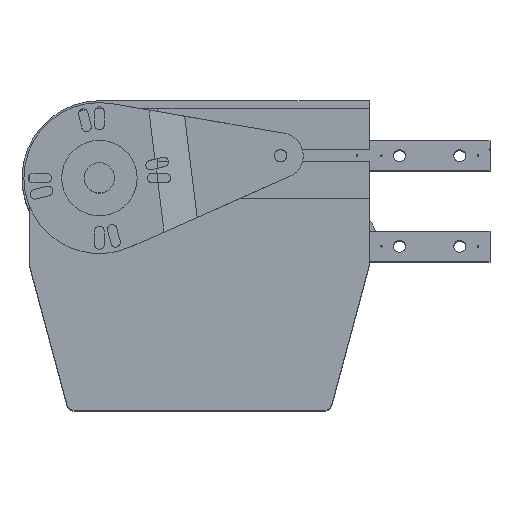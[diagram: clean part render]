
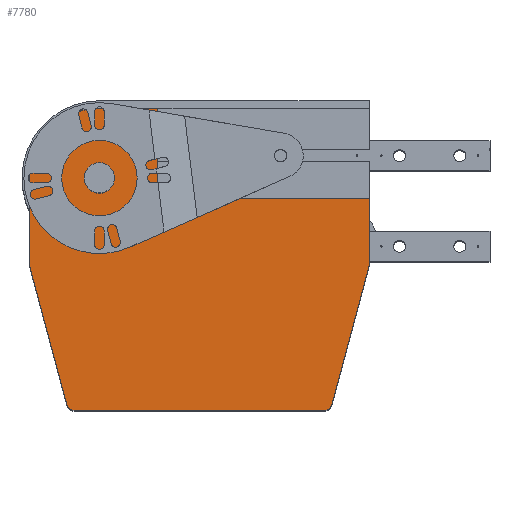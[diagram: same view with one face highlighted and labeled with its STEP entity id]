
A CAD part, top view. The second image highlights one B-rep face of the part: STEP entity #7780.
In plain terms, the highlighted planar face has unit normal (0, 0, 1).
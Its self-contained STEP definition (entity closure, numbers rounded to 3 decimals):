
#27 = EDGE_CURVE ( 'NONE', #3335, #2910, #748, .T. ) ;
#133 = CARTESIAN_POINT ( 'NONE',  ( 5., -51.3, 196. ) ) ;
#194 = CARTESIAN_POINT ( 'NONE',  ( 230., -106.4, 196. ) ) ;
#229 = ORIENTED_EDGE ( 'NONE', *, *, #4416, .T. ) ;
#374 = ORIENTED_EDGE ( 'NONE', *, *, #3971, .T. ) ;
#534 = CIRCLE ( 'NONE', #2267, 46.3 ) ;
#624 = DIRECTION ( 'NONE',  ( 0., 0., -1. ) ) ;
#709 = DIRECTION ( 'NONE',  ( -1., 0., 0. ) ) ;
#748 = CIRCLE ( 'NONE', #5394, 5. ) ;
#779 = FACE_BOUND ( 'NONE', #5028, .T. ) ;
#820 = DIRECTION ( 'NONE',  ( 0., 1., 0. ) ) ;
#987 = EDGE_CURVE ( 'NONE', #1405, #1373, #7731, .T. ) ;
#1004 = CARTESIAN_POINT ( 'NONE',  ( 5.17, -109.636, 196. ) ) ;
#1030 = CARTESIAN_POINT ( 'NONE',  ( 61.3, -51.3, 196. ) ) ;
#1039 = AXIS2_PLACEMENT_3D ( 'NONE', #3206, #7513, #709 ) ;
#1309 = DIRECTION ( 'NONE',  ( 0., 0., 1. ) ) ;
#1319 = VECTOR ( 'NONE', #7935, 1000. ) ;
#1373 = VERTEX_POINT ( 'NONE', #2838 ) ;
#1405 = VERTEX_POINT ( 'NONE', #6723 ) ;
#1452 = CARTESIAN_POINT ( 'NONE',  ( 200.44, -205., 196. ) ) ;
#1519 = CARTESIAN_POINT ( 'NONE',  ( 230., -109., 196. ) ) ;
#1601 = EDGE_LOOP ( 'NONE', ( #229, #2205, #374, #3161, #5091, #2837, #1822, #4027, #5417, #3319, #1809, #3948 ) ) ;
#1617 = VERTEX_POINT ( 'NONE', #3735 ) ;
#1809 = ORIENTED_EDGE ( 'NONE', *, *, #3712, .T. ) ;
#1822 = ORIENTED_EDGE ( 'NONE', *, *, #2753, .T. ) ;
#1889 = DIRECTION ( 'NONE',  ( -1., 0., 0. ) ) ;
#2055 = LINE ( 'NONE', #1519, #8042 ) ;
#2151 = VERTEX_POINT ( 'NONE', #6108 ) ;
#2205 = ORIENTED_EDGE ( 'NONE', *, *, #2975, .T. ) ;
#2248 = EDGE_CURVE ( 'NONE', #7619, #2732, #7311, .T. ) ;
#2267 = AXIS2_PLACEMENT_3D ( 'NONE', #6059, #6693, #5015 ) ;
#2302 = LINE ( 'NONE', #194, #3762 ) ;
#2342 = CARTESIAN_POINT ( 'NONE',  ( 90., -46.4, 196. ) ) ;
#2359 = LINE ( 'NONE', #3457, #2649 ) ;
#2415 = VERTEX_POINT ( 'NONE', #3340 ) ;
#2514 = DIRECTION ( 'NONE',  ( -1., 0., 0. ) ) ;
#2537 = VERTEX_POINT ( 'NONE', #1030 ) ;
#2649 = VECTOR ( 'NONE', #7778, 1000. ) ;
#2732 = VERTEX_POINT ( 'NONE', #3813 ) ;
#2753 = EDGE_CURVE ( 'NONE', #1617, #2415, #7786, .T. ) ;
#2786 = CARTESIAN_POINT ( 'NONE',  ( 200.44, -200., 196. ) ) ;
#2837 = ORIENTED_EDGE ( 'NONE', *, *, #6993, .T. ) ;
#2838 = CARTESIAN_POINT ( 'NONE',  ( 90., -65., 196. ) ) ;
#2910 = VERTEX_POINT ( 'NONE', #7724 ) ;
#2935 = CARTESIAN_POINT ( 'NONE',  ( 230., -109., 196. ) ) ;
#2975 = EDGE_CURVE ( 'NONE', #2151, #5097, #2359, .T. ) ;
#3122 = DIRECTION ( 'NONE',  ( -1., 0., 0. ) ) ;
#3161 = ORIENTED_EDGE ( 'NONE', *, *, #3687, .T. ) ;
#3206 = CARTESIAN_POINT ( 'NONE',  ( 51.3, -51.3, 196. ) ) ;
#3319 = ORIENTED_EDGE ( 'NONE', *, *, #7723, .T. ) ;
#3335 = VERTEX_POINT ( 'NONE', #1452 ) ;
#3340 = CARTESIAN_POINT ( 'NONE',  ( 34.56, -205., 196. ) ) ;
#3378 = DIRECTION ( 'NONE',  ( 0., 0., 1. ) ) ;
#3421 = ORIENTED_EDGE ( 'NONE', *, *, #6334, .T. ) ;
#3457 = CARTESIAN_POINT ( 'NONE',  ( 51.3, -5., 196. ) ) ;
#3474 = VECTOR ( 'NONE', #7552, 1000. ) ;
#3676 = CARTESIAN_POINT ( 'NONE',  ( 51.3, -51.3, 196. ) ) ;
#3687 = EDGE_CURVE ( 'NONE', #7900, #7619, #6173, .T. ) ;
#3712 = EDGE_CURVE ( 'NONE', #6761, #1405, #2302, .T. ) ;
#3735 = CARTESIAN_POINT ( 'NONE',  ( 29.73, -201.294, 196. ) ) ;
#3761 = AXIS2_PLACEMENT_3D ( 'NONE', #3676, #624, #1889 ) ;
#3762 = VECTOR ( 'NONE', #820, 1000. ) ;
#3797 = DIRECTION ( 'NONE',  ( 0., 0., 1. ) ) ;
#3813 = CARTESIAN_POINT ( 'NONE',  ( 5.17, -109.636, 196. ) ) ;
#3819 = AXIS2_PLACEMENT_3D ( 'NONE', #7550, #3797, #2514 ) ;
#3948 = ORIENTED_EDGE ( 'NONE', *, *, #987, .T. ) ;
#3971 = EDGE_CURVE ( 'NONE', #5097, #7900, #534, .T. ) ;
#3994 = DIRECTION ( 'NONE',  ( 0.259, 0.966, 0. ) ) ;
#4027 = ORIENTED_EDGE ( 'NONE', *, *, #4493, .T. ) ;
#4102 = DIRECTION ( 'NONE',  ( -1., 0., 0. ) ) ;
#4312 = CARTESIAN_POINT ( 'NONE',  ( 51.3, -5., 196. ) ) ;
#4347 = CARTESIAN_POINT ( 'NONE',  ( 230., -65., 196. ) ) ;
#4400 = ORIENTED_EDGE ( 'NONE', *, *, #4842, .T. ) ;
#4416 = EDGE_CURVE ( 'NONE', #1373, #2151, #5843, .T. ) ;
#4493 = EDGE_CURVE ( 'NONE', #2415, #3335, #6451, .T. ) ;
#4842 = EDGE_CURVE ( 'NONE', #2537, #6722, #5245, .T. ) ;
#4937 = CIRCLE ( 'NONE', #3761, 10. ) ;
#5014 = CARTESIAN_POINT ( 'NONE',  ( 34.56, -205., 196. ) ) ;
#5015 = DIRECTION ( 'NONE',  ( -1., 0., 0. ) ) ;
#5028 = EDGE_LOOP ( 'NONE', ( #4400, #3421 ) ) ;
#5091 = ORIENTED_EDGE ( 'NONE', *, *, #2248, .T. ) ;
#5097 = VERTEX_POINT ( 'NONE', #4312 ) ;
#5245 = CIRCLE ( 'NONE', #1039, 10. ) ;
#5394 = AXIS2_PLACEMENT_3D ( 'NONE', #6789, #1309, #6894 ) ;
#5417 = ORIENTED_EDGE ( 'NONE', *, *, #27, .T. ) ;
#5502 = CARTESIAN_POINT ( 'NONE',  ( 5., -51.3, 196. ) ) ;
#5843 = LINE ( 'NONE', #2342, #1319 ) ;
#6059 = CARTESIAN_POINT ( 'NONE',  ( 51.3, -51.3, 196. ) ) ;
#6071 = VECTOR ( 'NONE', #3122, 1000. ) ;
#6108 = CARTESIAN_POINT ( 'NONE',  ( 90., -5., 196. ) ) ;
#6147 = DIRECTION ( 'NONE',  ( 1., 0., 0. ) ) ;
#6173 = LINE ( 'NONE', #133, #3474 ) ;
#6334 = EDGE_CURVE ( 'NONE', #6722, #2537, #4937, .T. ) ;
#6402 = CARTESIAN_POINT ( 'NONE',  ( 34.56, -200., 196. ) ) ;
#6451 = LINE ( 'NONE', #5014, #7610 ) ;
#6481 = DIRECTION ( 'NONE',  ( -1., 0., 0. ) ) ;
#6513 = DIRECTION ( 'NONE',  ( 0.259, -0.966, 0. ) ) ;
#6540 = DIRECTION ( 'NONE',  ( 0., 0., -1. ) ) ;
#6693 = DIRECTION ( 'NONE',  ( 0., 0., 1. ) ) ;
#6722 = VERTEX_POINT ( 'NONE', #7804 ) ;
#6723 = CARTESIAN_POINT ( 'NONE',  ( 230., -65., 196. ) ) ;
#6761 = VERTEX_POINT ( 'NONE', #2935 ) ;
#6789 = CARTESIAN_POINT ( 'NONE',  ( 200.44, -200., 196. ) ) ;
#6894 = DIRECTION ( 'NONE',  ( -1., 0., 0. ) ) ;
#6993 = EDGE_CURVE ( 'NONE', #2732, #1617, #7787, .T. ) ;
#6999 = VECTOR ( 'NONE', #6513, 1000. ) ;
#7057 = CARTESIAN_POINT ( 'NONE',  ( 5., -108.342, 196. ) ) ;
#7068 = FACE_OUTER_BOUND ( 'NONE', #1601, .T. ) ;
#7183 = AXIS2_PLACEMENT_3D ( 'NONE', #6402, #3378, #6481 ) ;
#7311 = CIRCLE ( 'NONE', #3819, 5. ) ;
#7513 = DIRECTION ( 'NONE',  ( 0., 0., -1. ) ) ;
#7550 = CARTESIAN_POINT ( 'NONE',  ( 10., -108.342, 196. ) ) ;
#7552 = DIRECTION ( 'NONE',  ( 0., -1., 0. ) ) ;
#7610 = VECTOR ( 'NONE', #6147, 1000. ) ;
#7619 = VERTEX_POINT ( 'NONE', #7057 ) ;
#7723 = EDGE_CURVE ( 'NONE', #2910, #6761, #2055, .T. ) ;
#7724 = CARTESIAN_POINT ( 'NONE',  ( 205.27, -201.294, 196. ) ) ;
#7731 = LINE ( 'NONE', #4347, #6071 ) ;
#7769 = AXIS2_PLACEMENT_3D ( 'NONE', #2786, #6540, #4102 ) ;
#7778 = DIRECTION ( 'NONE',  ( -1., 0., 0. ) ) ;
#7780 = ADVANCED_FACE ( 'NONE', ( #779, #7068 ), #7791, .F. ) ;
#7786 = CIRCLE ( 'NONE', #7183, 5. ) ;
#7787 = LINE ( 'NONE', #1004, #6999 ) ;
#7791 = PLANE ( 'NONE',  #7769 ) ;
#7804 = CARTESIAN_POINT ( 'NONE',  ( 41.3, -51.3, 196. ) ) ;
#7900 = VERTEX_POINT ( 'NONE', #5502 ) ;
#7935 = DIRECTION ( 'NONE',  ( 0., 1., 0. ) ) ;
#8042 = VECTOR ( 'NONE', #3994, 1000. ) ;
